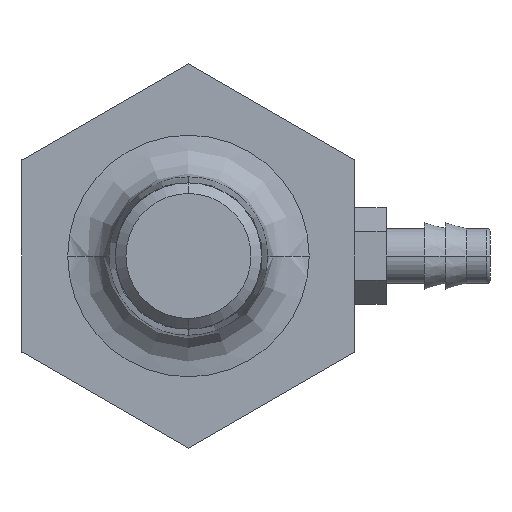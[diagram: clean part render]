
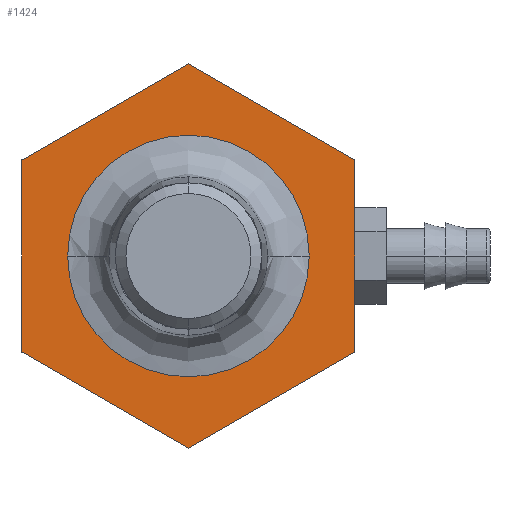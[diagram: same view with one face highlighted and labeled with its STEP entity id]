
A CAD part, left-side view. The second image highlights one B-rep face of the part: STEP entity #1424.
In plain terms, the highlighted planar face has unit normal (-1, 0, 0).
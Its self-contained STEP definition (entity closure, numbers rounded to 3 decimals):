
#1165=CARTESIAN_POINT('',(-2.25,0.363,0.));
#1166=VERTEX_POINT('',#1165);
#1176=CARTESIAN_POINT('',(-2.25,-0.363,0.));
#1177=VERTEX_POINT('',#1176);
#1178=CARTESIAN_POINT('',(-2.25,0.,0.0));
#1179=DIRECTION('',(-1.0,0.0,0.0));
#1180=DIRECTION('',(0.0,0.0,1.0));
#1181=AXIS2_PLACEMENT_3D('',#1178,#1179,#1180);
#1182=CIRCLE('',#1181,0.363);
#1183=EDGE_CURVE('',#1166,#1177,#1182,.T.);
#1332=CARTESIAN_POINT('',(-2.25,0.,0.363));
#1333=VERTEX_POINT('',#1332);
#1334=CARTESIAN_POINT('',(-2.25,0.,0.0));
#1335=DIRECTION('',(-1.0,0.0,0.0));
#1336=DIRECTION('',(0.0,0.0,1.0));
#1337=AXIS2_PLACEMENT_3D('',#1334,#1335,#1336);
#1338=CIRCLE('',#1337,0.363);
#1339=EDGE_CURVE('',#1177,#1333,#1338,.T.);
#1341=CARTESIAN_POINT('',(-2.25,0.,0.0));
#1342=DIRECTION('',(-1.0,0.0,0.0));
#1343=DIRECTION('',(0.0,0.0,1.0));
#1344=AXIS2_PLACEMENT_3D('',#1341,#1342,#1343);
#1345=CIRCLE('',#1344,0.363);
#1346=EDGE_CURVE('',#1333,#1166,#1345,.T.);
#1364=CARTESIAN_POINT('',(-2.25,0.0,0.));
#1365=DIRECTION('',(-1.0,0.0,0.0));
#1366=DIRECTION('',(0.0,0.0,1.0));
#1367=AXIS2_PLACEMENT_3D('',#1364,#1365,#1366);
#1368=PLANE('',#1367);
#1369=CARTESIAN_POINT('',(-2.25,0.5,0.289));
#1370=VERTEX_POINT('',#1369);
#1371=CARTESIAN_POINT('',(-2.25,0.,0.577));
#1372=VERTEX_POINT('',#1371);
#1373=CARTESIAN_POINT('',(-2.25,0.5,0.289));
#1374=DIRECTION('',(0.0,-0.866,0.5));
#1375=VECTOR('',#1374,0.577);
#1376=LINE('',#1373,#1375);
#1377=EDGE_CURVE('',#1370,#1372,#1376,.T.);
#1378=ORIENTED_EDGE('',*,*,#1377,.F.);
#1379=CARTESIAN_POINT('',(-2.25,0.5,-0.289));
#1380=VERTEX_POINT('',#1379);
#1381=CARTESIAN_POINT('',(-2.25,0.5,-0.289));
#1382=DIRECTION('',(0.0,0.0,1.0));
#1383=VECTOR('',#1382,0.577);
#1384=LINE('',#1381,#1383);
#1385=EDGE_CURVE('',#1380,#1370,#1384,.T.);
#1386=ORIENTED_EDGE('',*,*,#1385,.F.);
#1387=CARTESIAN_POINT('',(-2.25,0.,-0.577));
#1388=VERTEX_POINT('',#1387);
#1389=CARTESIAN_POINT('',(-2.25,0.,-0.577));
#1390=DIRECTION('',(0.0,0.866,0.5));
#1391=VECTOR('',#1390,0.577);
#1392=LINE('',#1389,#1391);
#1393=EDGE_CURVE('',#1388,#1380,#1392,.T.);
#1394=ORIENTED_EDGE('',*,*,#1393,.F.);
#1395=CARTESIAN_POINT('',(-2.25,-0.5,-0.289));
#1396=VERTEX_POINT('',#1395);
#1397=CARTESIAN_POINT('',(-2.25,-0.5,-0.289));
#1398=DIRECTION('',(0.0,0.866,-0.5));
#1399=VECTOR('',#1398,0.577);
#1400=LINE('',#1397,#1399);
#1401=EDGE_CURVE('',#1396,#1388,#1400,.T.);
#1402=ORIENTED_EDGE('',*,*,#1401,.F.);
#1403=CARTESIAN_POINT('',(-2.25,-0.5,0.289));
#1404=VERTEX_POINT('',#1403);
#1405=CARTESIAN_POINT('',(-2.25,-0.5,0.289));
#1406=DIRECTION('',(0.0,0.0,-1.0));
#1407=VECTOR('',#1406,0.577);
#1408=LINE('',#1405,#1407);
#1409=EDGE_CURVE('',#1404,#1396,#1408,.T.);
#1410=ORIENTED_EDGE('',*,*,#1409,.F.);
#1411=CARTESIAN_POINT('',(-2.25,0.,0.577));
#1412=DIRECTION('',(0.0,-0.866,-0.5));
#1413=VECTOR('',#1412,0.577);
#1414=LINE('',#1411,#1413);
#1415=EDGE_CURVE('',#1372,#1404,#1414,.T.);
#1416=ORIENTED_EDGE('',*,*,#1415,.F.);
#1417=EDGE_LOOP('',(#1378,#1386,#1394,#1402,#1410,#1416));
#1418=FACE_OUTER_BOUND('',#1417,.T.);
#1419=ORIENTED_EDGE('',*,*,#1346,.F.);
#1420=ORIENTED_EDGE('',*,*,#1339,.F.);
#1421=ORIENTED_EDGE('',*,*,#1183,.F.);
#1422=EDGE_LOOP('',(#1419,#1420,#1421));
#1423=FACE_BOUND('',#1422,.T.);
#1424=ADVANCED_FACE('',(#1418,#1423),#1368,.T.);
